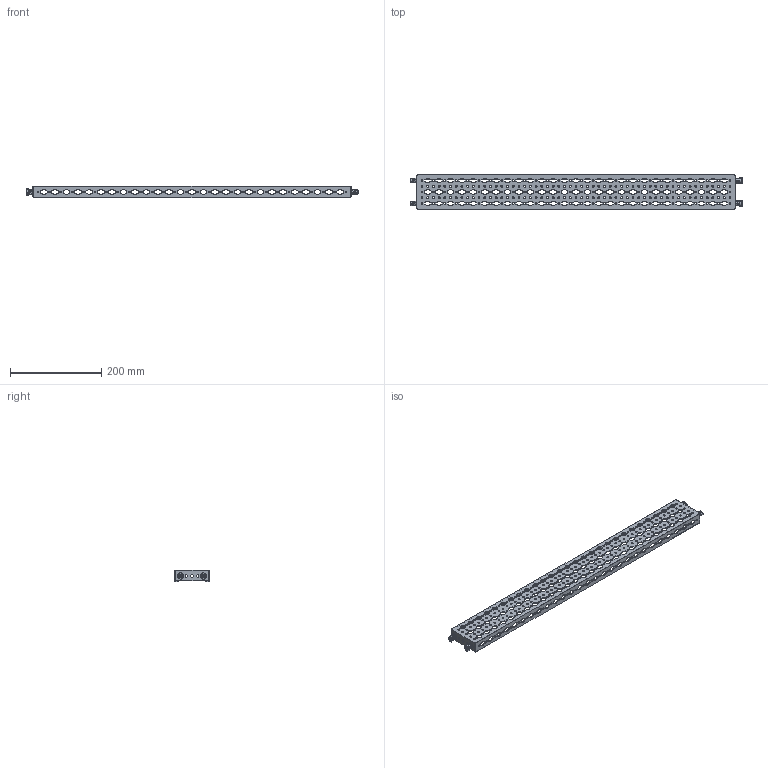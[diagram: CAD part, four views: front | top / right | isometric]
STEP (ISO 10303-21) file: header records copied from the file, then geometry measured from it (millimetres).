
FILE_DESCRIPTION(('Open CASCADE Model'),'2;1');
FILE_NAME('Open CASCADE Shape Model','2025-02-21T17:49:19',('Author'),( 'Open CASCADE'),'Open CASCADE STEP processor 7.8','Open CASCADE 7.8' ,'Unknown');
FILE_SCHEMA(('AUTOMOTIVE_DESIGN { 1 0 10303 214 1 1 1 1 }'));
Length unit declared in the file: millimetre
Products named in the file (4): Compound1; Solid1; Solid2; Solid3
Assembly tree (9 placements, depth 2):
  Compound1
    Solid1
    Solid2  x4
    Solid3  x4
Bounding box: 727.6 x 75 x 25 mm (x, y, z)
Volume: 125193.1 mm3; surface area: 184387.5 mm2
Topology: 13 solids, 13 shells, 3214 faces, 9465 edges, 6269 vertices
Faces by surface type: cylinder 1766, plane 1172, bspline 176, torus 56, cone 40, sphere 4
Full cylindrical faces by diameter (mm): 4.2 x250, 5.5 x4, 6 x4, 6.5 x10, 8.3 x4, 12 x4
Entity records: 96892 total; most frequent: CARTESIAN_POINT 20696, DIRECTION 16290, ORIENTED_EDGE 16036, EDGE_CURVE 8018, AXIS2_PLACEMENT_3D 6105, VERTEX_POINT 5372, LINE 4080, VECTOR 4080
